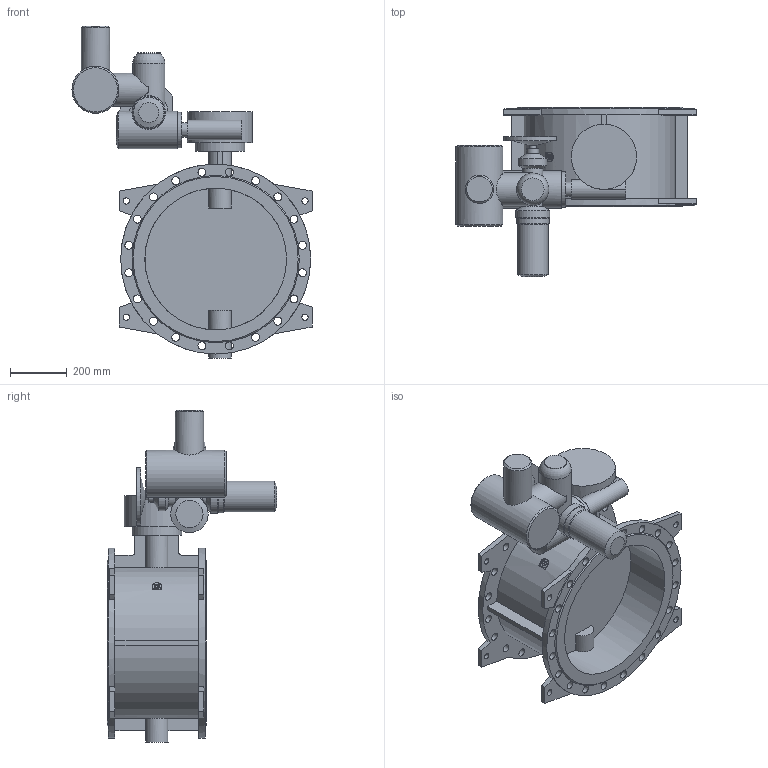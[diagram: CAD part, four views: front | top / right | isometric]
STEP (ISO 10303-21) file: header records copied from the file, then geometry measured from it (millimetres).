
FILE_DESCRIPTION(('STEP AP203'), '1');
FILE_NAME('Çàòâîð 023F.Z DN500 PN10 + ðåäóêòîð + ÌÒ903.À10 ñ ÁÓ', '', ('UNSPECIFIED'), ('UNSPECIFIED'), 'ASCON STEP Converter 1.6', 'ASCON Math Kernel', '');
FILE_SCHEMA(('CONFIG_CONTROL_DESIGN'));
Length unit declared in the file: millimetre
Bounding box: 847 x 598 x 1171 mm (x, y, z)
Volume: 49085054.7 mm3; surface area: 3182470.8 mm2
Topology: 1 solids, 1 shells, 234 faces, 571 edges, 374 vertices
Faces by surface type: plane 111, cylinder 109, cone 13, torus 1
Full cylindrical faces by diameter (mm): 8.5 x4, 12 x4, 14 x4, 18 x4, 22 x8, 24 x1, 28 x40, 42 x1, 50 x1, 66 x1, 70 x1, 72 x1, 80 x2, 100 x2, 108 x1, 114 x1, 115 x1, 116 x1, 119 x1, 125 x1, 132 x1, 166 x1, 175 x1, 230 x1, 500 x2, 670 x2
Entity records: 10894 total; most frequent: CARTESIAN_POINT 3559, DIRECTION 1132, ORIENTED_EDGE 930, EDGE_LOOP 470, AXIS2_PLACEMENT_3D 469, EDGE_CURVE 465, VERTEX_POINT 373, FACE_BOUND 276
